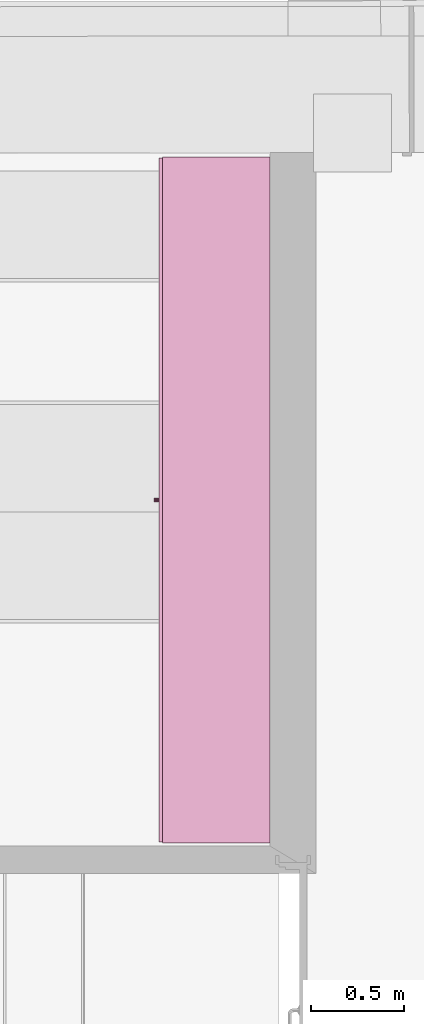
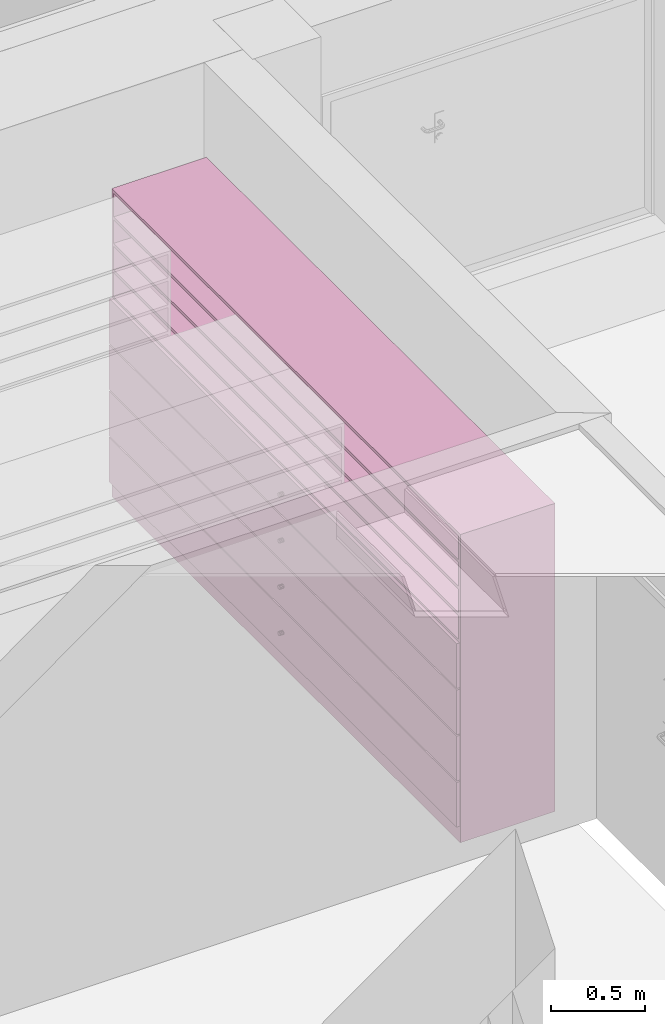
# One storey, part 113 of 127: 1 furnishing.
"""IFC2X3 building model written with IfcOpenShell, lengths in millimetres."""

from ifc_helpers import new_model, entity, si_unit, converted_unit, derived_unit, money_unit, direction, frame, origin_with_axes, place, context, subcontext, project, spatial, faceted_brep, type_object, element, save


model = new_model("IFC2X3")

# Units and contexts
model_context = context("Model", 3, precision=1e-05, world=origin_with_axes(), true_north=direction((0.0, 1.0)))
body_context = subcontext(model_context, "Body", "Model", "MODEL_VIEW")
ifc_project = project(units=[si_unit("LENGTHUNIT", "METRE", prefix="MILLI"), si_unit("AREAUNIT", "SQUARE_METRE"), si_unit("VOLUMEUNIT", "CUBIC_METRE"), converted_unit("PLANEANGLEUNIT", "DEGREE", entity("IfcPlaneAngleMeasure", 0.0174532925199), si_unit("PLANEANGLEUNIT", "RADIAN"), dimensions=[0, 0, 0, 0, 0, 0, 0]), si_unit("SOLIDANGLEUNIT", "STERADIAN"), money_unit("EUR"), converted_unit("TIMEUNIT", "Year", entity("IfcTimeMeasure", 31556926.0), si_unit("TIMEUNIT", "SECOND"), dimensions=[0, 0, 1, 0, 0, 0, 0]), si_unit("MASSUNIT", "GRAM", prefix="KILO"), si_unit("THERMODYNAMICTEMPERATUREUNIT", "DEGREE_CELSIUS"), si_unit("LUMINOUSINTENSITYUNIT", "LUMEN"), si_unit("ENERGYUNIT", "JOULE", prefix="MEGA"), derived_unit("THERMALCONDUCTANCEUNIT", [(si_unit("POWERUNIT", "WATT"), 1), (si_unit("LENGTHUNIT", "METRE"), -1), (si_unit("THERMODYNAMICTEMPERATUREUNIT", "KELVIN"), -1)]), derived_unit("SPECIFICHEATCAPACITYUNIT", [(si_unit("ENERGYUNIT", "JOULE"), 1), (si_unit("MASSUNIT", "GRAM", prefix="KILO"), -1), (si_unit("THERMODYNAMICTEMPERATUREUNIT", "KELVIN"), -1)]), derived_unit("MASSDENSITYUNIT", [(si_unit("MASSUNIT", "GRAM", prefix="KILO"), 1), (si_unit("VOLUMEUNIT", "CUBIC_METRE"), -1)])], contexts=[model_context])

# Site, building, storey
site_placement = place(None, origin_with_axes())
site = spatial("IfcSite", under=ifc_project, at=site_placement, Name="Site", CompositionType="ELEMENT")
building_placement = place(site_placement, origin_with_axes())
building = spatial("IfcBuilding", under=site, at=building_placement, Name="Building", CompositionType="ELEMENT")
storey_placement = place(building_placement, origin_with_axes())
storey = spatial("IfcBuildingStorey", under=building, at=storey_placement, Name="1 KORRUS", CompositionType="ELEMENT", Elevation=0.0)

# Furnishing
furnishing_element_type = type_object("IfcFurnishingElementType", Name="Model Element 37")
furnishing_placement = place(storey_placement, frame((38903.4452833, 67466.3690561, 0.0), z_axis=(0.0, 0.0, 1.0), x_axis=(0.0, -1.0, 0.0)))
element("IfcFurnishingElement", 1, at=furnishing_placement, inside=storey, type_object=furnishing_element_type, Name="FU - 003", context=body_context, shape_type="Brep", body=[
    faceted_brep([(-3705.68671691, 19.0, 0.0), (-3705.68671691, 600.000000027, 0.0), (0.0, 600.000000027, 0.0), (0.0, 19.0, 0.0), (-3705.68671691, 19.0, 100.0), (-3705.68671691, 600.000000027, 100.0), (0.0, 600.000000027, 100.0), (0.0, 19.0, 100.0)], [[[0, 1, 2, 3]], [[0, 4, 5, 1]], [[1, 5, 6, 2]], [[2, 6, 7, 3]], [[3, 7, 4, 0]], [[7, 6, 5, 4]]]),
    faceted_brep([(-19.0, 600.000000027, 119.0), (-19.0, 600.000000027, 1981.0), (-19.0, 581.000000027, 1981.0), (-19.0, 581.000000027, 119.0), (-3686.68671691, 600.000000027, 119.0), (-3686.68671691, 600.000000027, 1981.0), (-3686.68671691, 581.000000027, 1981.0), (-3686.68671691, 581.000000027, 119.0)], [[[0, 1, 2, 3]], [[4, 5, 1, 0]], [[1, 5, 6, 2]], [[3, 2, 6, 7]], [[0, 3, 7, 4]], [[7, 6, 5, 4]]]),
    faceted_brep([(-3705.68671691, 19.0, 100.0), (-3705.68671691, 600.000000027, 100.0), (-3686.68671691, 600.000000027, 100.0), (-3686.68671691, 19.0, 100.0), (-3705.68671691, 19.0, 2000.0), (-3705.68671691, 600.000000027, 2000.0), (-3686.68671691, 600.000000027, 2000.0), (-3686.68671691, 19.0, 2000.0)], [[[0, 1, 2, 3]], [[0, 4, 5, 1]], [[1, 5, 6, 2]], [[2, 6, 7, 3]], [[3, 7, 4, 0]], [[7, 6, 5, 4]]]),
    faceted_brep([(-19.0, 19.0, 100.0), (-19.0, 600.000000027, 100.0), (0.0, 600.000000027, 100.0), (0.0, 19.0, 100.0), (-19.0, 19.0, 2000.0), (-19.0, 600.000000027, 2000.0), (0.0, 600.000000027, 2000.0), (0.0, 19.0, 2000.0)], [[[0, 1, 2, 3]], [[0, 4, 5, 1]], [[1, 5, 6, 2]], [[2, 6, 7, 3]], [[3, 7, 4, 0]], [[7, 6, 5, 4]]]),
    faceted_brep([(-3686.68671691, 19.0, 100.0), (-3686.68671691, 600.000000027, 100.0), (-19.0, 600.000000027, 100.0), (-19.0, 19.0, 100.0), (-3686.68671691, 19.0, 119.0), (-3686.68671691, 600.000000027, 119.0), (-19.0, 600.000000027, 119.0), (-19.0, 19.0, 119.0)], [[[0, 1, 2, 3]], [[0, 4, 5, 1]], [[1, 5, 6, 2]], [[2, 6, 7, 3]], [[3, 7, 4, 0]], [[7, 6, 5, 4]]]),
    faceted_brep([(-3686.68671691, 19.0, 1981.0), (-3686.68671691, 600.000000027, 1981.0), (-19.0, 600.000000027, 1981.0), (-19.0, 19.0, 1981.0), (-3686.68671691, 19.0, 2000.0), (-3686.68671691, 600.000000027, 2000.0), (-19.0, 600.000000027, 2000.0), (-19.0, 19.0, 2000.0)], [[[0, 1, 2, 3]], [[0, 4, 5, 1]], [[1, 5, 6, 2]], [[2, 6, 7, 3]], [[3, 7, 4, 0]], [[7, 6, 5, 4]]]),
    faceted_brep([(-5.0, 19.0, 105.0), (-5.0, 0.0, 105.0), (-3700.68671691, 0.0, 105.0), (-3700.68671691, 19.0, 105.0), (-5.0, 19.0, 395.0), (-5.0, 0.0, 395.0), (-3700.68671691, 0.0, 395.0), (-3700.68671691, 19.0, 395.0)], [[[0, 1, 2, 3]], [[4, 5, 1, 0]], [[1, 5, 6, 2]], [[3, 2, 6, 7]], [[0, 3, 7, 4]], [[7, 6, 5, 4]]]),
    faceted_brep([(-1863.2356633, 0.0, 244.0), (-1864.84335846, 0.0, 250.0), (-1863.2356633, 0.0, 256.0), (-1858.84335846, 0.0, 260.392304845), (-1852.84335846, 0.0, 262.0), (-1846.84335846, 0.0, 260.392304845), (-1842.45105361, 0.0, 256.0), (-1840.84335846, 0.0, 250.0), (-1842.45105361, 0.0, 244.0), (-1846.84335846, 0.0, 239.607695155), (-1852.84335846, 0.0, 238.0), (-1858.84335846, 0.0, 239.607695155), (-1863.2356633, -25.0, 244.0), (-1864.84335846, -25.0, 250.0), (-1863.2356633, -25.0, 256.0), (-1858.84335846, -25.0, 260.392304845), (-1852.84335846, -25.0, 262.0), (-1846.84335846, -25.0, 260.392304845), (-1842.45105361, -25.0, 256.0), (-1840.84335846, -25.0, 250.0), (-1842.45105361, -25.0, 244.0), (-1846.84335846, -25.0, 239.607695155), (-1852.84335846, -25.0, 238.0), (-1858.84335846, -25.0, 239.607695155)], [[[0, 1, 2, 3, 4, 5, 6, 7, 8, 9, 10, 11]], [[0, 12, 13, 1]], [[1, 13, 14, 2]], [[2, 14, 15, 3]], [[3, 15, 16, 4]], [[4, 16, 17, 5]], [[5, 17, 18, 6]], [[6, 18, 19, 7]], [[7, 19, 20, 8]], [[8, 20, 21, 9]], [[9, 21, 22, 10]], [[10, 22, 23, 11]], [[11, 23, 12, 0]], [[12, 23, 22, 21, 20, 19, 18, 17, 16, 15, 14, 13]]]),
    faceted_brep([(-5.0, 19.0, 405.0), (-5.0, 0.0, 405.0), (-3700.68671691, 0.0, 405.0), (-3700.68671691, 19.0, 405.0), (-5.0, 19.0, 695.0), (-5.0, 0.0, 695.0), (-3700.68671691, 0.0, 695.0), (-3700.68671691, 19.0, 695.0)], [[[0, 1, 2, 3]], [[4, 5, 1, 0]], [[1, 5, 6, 2]], [[3, 2, 6, 7]], [[0, 3, 7, 4]], [[7, 6, 5, 4]]]),
    faceted_brep([(-1863.2356633, 0.0, 544.0), (-1864.84335846, 0.0, 550.0), (-1863.2356633, 0.0, 556.0), (-1858.84335846, 0.0, 560.392304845), (-1852.84335846, 0.0, 562.0), (-1846.84335846, 0.0, 560.392304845), (-1842.45105361, 0.0, 556.0), (-1840.84335846, 0.0, 550.0), (-1842.45105361, 0.0, 544.0), (-1846.84335846, 0.0, 539.607695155), (-1852.84335846, 0.0, 538.0), (-1858.84335846, 0.0, 539.607695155), (-1863.2356633, -25.0, 544.0), (-1864.84335846, -25.0, 550.0), (-1863.2356633, -25.0, 556.0), (-1858.84335846, -25.0, 560.392304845), (-1852.84335846, -25.0, 562.0), (-1846.84335846, -25.0, 560.392304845), (-1842.45105361, -25.0, 556.0), (-1840.84335846, -25.0, 550.0), (-1842.45105361, -25.0, 544.0), (-1846.84335846, -25.0, 539.607695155), (-1852.84335846, -25.0, 538.0), (-1858.84335846, -25.0, 539.607695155)], [[[0, 1, 2, 3, 4, 5, 6, 7, 8, 9, 10, 11]], [[0, 12, 13, 1]], [[1, 13, 14, 2]], [[2, 14, 15, 3]], [[3, 15, 16, 4]], [[4, 16, 17, 5]], [[5, 17, 18, 6]], [[6, 18, 19, 7]], [[7, 19, 20, 8]], [[8, 20, 21, 9]], [[9, 21, 22, 10]], [[10, 22, 23, 11]], [[11, 23, 12, 0]], [[12, 23, 22, 21, 20, 19, 18, 17, 16, 15, 14, 13]]]),
    faceted_brep([(-5.0, 19.0, 705.0), (-5.0, 0.0, 705.0), (-3700.68671691, 0.0, 705.0), (-3700.68671691, 19.0, 705.0), (-5.0, 19.0, 995.0), (-5.0, 0.0, 995.0), (-3700.68671691, 0.0, 995.0), (-3700.68671691, 19.0, 995.0)], [[[0, 1, 2, 3]], [[4, 5, 1, 0]], [[1, 5, 6, 2]], [[3, 2, 6, 7]], [[0, 3, 7, 4]], [[7, 6, 5, 4]]]),
    faceted_brep([(-1863.2356633, 0.0, 844.0), (-1864.84335846, 0.0, 850.0), (-1863.2356633, 0.0, 856.0), (-1858.84335846, 0.0, 860.392304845), (-1852.84335846, 0.0, 862.0), (-1846.84335846, 0.0, 860.392304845), (-1842.45105361, 0.0, 856.0), (-1840.84335846, 0.0, 850.0), (-1842.45105361, 0.0, 844.0), (-1846.84335846, 0.0, 839.607695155), (-1852.84335846, 0.0, 838.0), (-1858.84335846, 0.0, 839.607695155), (-1863.2356633, -25.0, 844.0), (-1864.84335846, -25.0, 850.0), (-1863.2356633, -25.0, 856.0), (-1858.84335846, -25.0, 860.392304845), (-1852.84335846, -25.0, 862.0), (-1846.84335846, -25.0, 860.392304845), (-1842.45105361, -25.0, 856.0), (-1840.84335846, -25.0, 850.0), (-1842.45105361, -25.0, 844.0), (-1846.84335846, -25.0, 839.607695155), (-1852.84335846, -25.0, 838.0), (-1858.84335846, -25.0, 839.607695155)], [[[0, 1, 2, 3, 4, 5, 6, 7, 8, 9, 10, 11]], [[0, 12, 13, 1]], [[1, 13, 14, 2]], [[2, 14, 15, 3]], [[3, 15, 16, 4]], [[4, 16, 17, 5]], [[5, 17, 18, 6]], [[6, 18, 19, 7]], [[7, 19, 20, 8]], [[8, 20, 21, 9]], [[9, 21, 22, 10]], [[10, 22, 23, 11]], [[11, 23, 12, 0]], [[12, 23, 22, 21, 20, 19, 18, 17, 16, 15, 14, 13]]]),
    faceted_brep([(-5.0, 19.0, 1005.0), (-5.0, 0.0, 1005.0), (-3700.68671691, 0.0, 1005.0), (-3700.68671691, 19.0, 1005.0), (-5.0, 19.0, 1295.0), (-5.0, 0.0, 1295.0), (-3700.68671691, 0.0, 1295.0), (-3700.68671691, 19.0, 1295.0)], [[[0, 1, 2, 3]], [[4, 5, 1, 0]], [[1, 5, 6, 2]], [[3, 2, 6, 7]], [[0, 3, 7, 4]], [[7, 6, 5, 4]]]),
    faceted_brep([(-1863.2356633, 0.0, 1144.0), (-1864.84335846, 0.0, 1150.0), (-1863.2356633, 0.0, 1156.0), (-1858.84335846, 0.0, 1160.39230485), (-1852.84335846, 0.0, 1162.0), (-1846.84335846, 0.0, 1160.39230485), (-1842.45105361, 0.0, 1156.0), (-1840.84335846, 0.0, 1150.0), (-1842.45105361, 0.0, 1144.0), (-1846.84335846, 0.0, 1139.60769515), (-1852.84335846, 0.0, 1138.0), (-1858.84335846, 0.0, 1139.60769515), (-1863.2356633, -25.0, 1144.0), (-1864.84335846, -25.0, 1150.0), (-1863.2356633, -25.0, 1156.0), (-1858.84335846, -25.0, 1160.39230485), (-1852.84335846, -25.0, 1162.0), (-1846.84335846, -25.0, 1160.39230485), (-1842.45105361, -25.0, 1156.0), (-1840.84335846, -25.0, 1150.0), (-1842.45105361, -25.0, 1144.0), (-1846.84335846, -25.0, 1139.60769515), (-1852.84335846, -25.0, 1138.0), (-1858.84335846, -25.0, 1139.60769515)], [[[0, 1, 2, 3, 4, 5, 6, 7, 8, 9, 10, 11]], [[0, 12, 13, 1]], [[1, 13, 14, 2]], [[2, 14, 15, 3]], [[3, 15, 16, 4]], [[4, 16, 17, 5]], [[5, 17, 18, 6]], [[6, 18, 19, 7]], [[7, 19, 20, 8]], [[8, 20, 21, 9]], [[9, 21, 22, 10]], [[10, 22, 23, 11]], [[11, 23, 12, 0]], [[12, 23, 22, 21, 20, 19, 18, 17, 16, 15, 14, 13]]]),
    faceted_brep([(-19.0, 19.0, 390.5), (-19.0, 19.0, 409.5), (-3686.68671691, 19.0, 409.5), (-3686.68671691, 19.0, 390.5), (-19.0, 581.000000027, 390.5), (-19.0, 581.000000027, 409.5), (-3686.68671691, 581.000000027, 409.5), (-3686.68671691, 581.000000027, 390.5)], [[[0, 1, 2, 3]], [[4, 5, 1, 0]], [[1, 5, 6, 2]], [[3, 2, 6, 7]], [[0, 3, 7, 4]], [[7, 6, 5, 4]]]),
    faceted_brep([(-19.0, 19.0, 690.5), (-19.0, 19.0, 709.5), (-3686.68671691, 19.0, 709.5), (-3686.68671691, 19.0, 690.5), (-19.0, 581.000000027, 690.5), (-19.0, 581.000000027, 709.5), (-3686.68671691, 581.000000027, 709.5), (-3686.68671691, 581.000000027, 690.5)], [[[0, 1, 2, 3]], [[4, 5, 1, 0]], [[1, 5, 6, 2]], [[3, 2, 6, 7]], [[0, 3, 7, 4]], [[7, 6, 5, 4]]]),
    faceted_brep([(-19.0, 19.0, 990.5), (-19.0, 19.0, 1009.5), (-3686.68671691, 19.0, 1009.5), (-3686.68671691, 19.0, 990.5), (-19.0, 581.000000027, 990.5), (-19.0, 581.000000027, 1009.5), (-3686.68671691, 581.000000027, 1009.5), (-3686.68671691, 581.000000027, 990.5)], [[[0, 1, 2, 3]], [[4, 5, 1, 0]], [[1, 5, 6, 2]], [[3, 2, 6, 7]], [[0, 3, 7, 4]], [[7, 6, 5, 4]]]),
    faceted_brep([(-19.0, 19.0, 1290.5), (-19.0, 19.0, 1309.5), (-3686.68671691, 19.0, 1309.5), (-3686.68671691, 19.0, 1290.5), (-19.0, 581.000000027, 1290.5), (-19.0, 581.000000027, 1309.5), (-3686.68671691, 581.000000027, 1309.5), (-3686.68671691, 581.000000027, 1290.5)], [[[0, 1, 2, 3]], [[4, 5, 1, 0]], [[1, 5, 6, 2]], [[3, 2, 6, 7]], [[0, 3, 7, 4]], [[7, 6, 5, 4]]]),
    faceted_brep([(-3686.68671691, 19.0, 1463.125), (-3686.68671691, 581.000000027, 1463.125), (-19.0, 581.000000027, 1463.125), (-19.0, 19.0, 1463.125), (-3686.68671691, 19.0, 1482.125), (-3686.68671691, 581.000000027, 1482.125), (-19.0, 581.000000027, 1482.125), (-19.0, 19.0, 1482.125)], [[[0, 1, 2, 3]], [[0, 4, 5, 1]], [[1, 5, 6, 2]], [[2, 6, 7, 3]], [[3, 7, 4, 0]], [[7, 6, 5, 4]]]),
    faceted_brep([(-3686.68671691, 19.0, 1635.75), (-3686.68671691, 581.000000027, 1635.75), (-19.0, 581.000000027, 1635.75), (-19.0, 19.0, 1635.75), (-3686.68671691, 19.0, 1654.75), (-3686.68671691, 581.000000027, 1654.75), (-19.0, 581.000000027, 1654.75), (-19.0, 19.0, 1654.75)], [[[0, 1, 2, 3]], [[0, 4, 5, 1]], [[1, 5, 6, 2]], [[2, 6, 7, 3]], [[3, 7, 4, 0]], [[7, 6, 5, 4]]]),
    faceted_brep([(-3686.68671691, 19.0, 1808.375), (-3686.68671691, 581.000000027, 1808.375), (-19.0, 581.000000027, 1808.375), (-19.0, 19.0, 1808.375), (-3686.68671691, 19.0, 1827.375), (-3686.68671691, 581.000000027, 1827.375), (-19.0, 581.000000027, 1827.375), (-19.0, 19.0, 1827.375)], [[[0, 1, 2, 3]], [[0, 4, 5, 1]], [[1, 5, 6, 2]], [[2, 6, 7, 3]], [[3, 7, 4, 0]], [[7, 6, 5, 4]]]),
])

save(model, "model.ifc")
